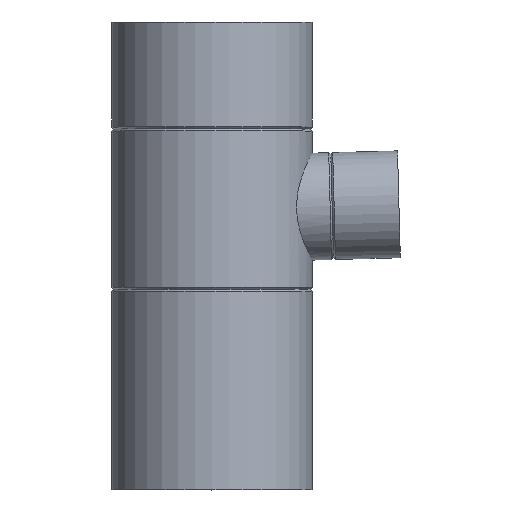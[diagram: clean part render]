
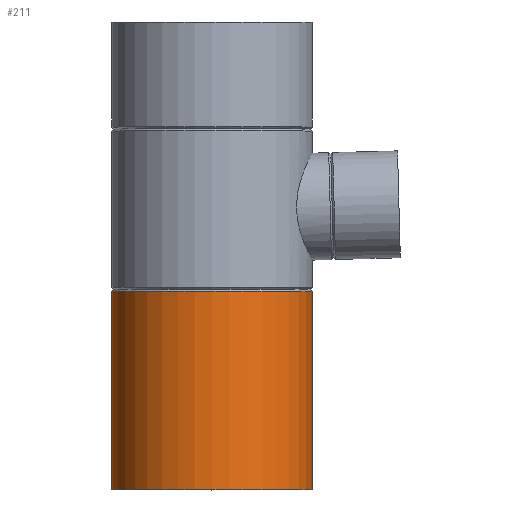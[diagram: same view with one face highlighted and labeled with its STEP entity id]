
A CAD part, top view. The second image highlights one B-rep face of the part: STEP entity #211.
In plain terms, the highlighted cylindrical face has radius 37.5 mm (diameter 75 mm), a full revolution.
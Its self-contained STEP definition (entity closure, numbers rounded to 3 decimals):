
#23=CYLINDRICAL_SURFACE($,#244,37.5);
#41=FACE_BOUND($,#87,.T.);
#57=FACE_OUTER_BOUND($,#86,.T.);
#86=EDGE_LOOP($,(#169));
#87=EDGE_LOOP($,(#170));
#100=CIRCLE($,#232,37.5);
#106=CIRCLE($,#245,37.5);
#116=VERTEX_POINT($,#403);
#123=VERTEX_POINT($,#485);
#133=EDGE_CURVE($,#116,#116,#100,.T.);
#140=EDGE_CURVE($,#123,#123,#106,.T.);
#169=ORIENTED_EDGE($,*,*,#133,.T.);
#170=ORIENTED_EDGE($,*,*,#140,.F.);
#211=ADVANCED_FACE($,(#57,#41),#23,.T.);
#232=AXIS2_PLACEMENT_3D($,#404,#280,#281);
#244=AXIS2_PLACEMENT_3D($,#484,#304,#305);
#245=AXIS2_PLACEMENT_3D($,#486,#306,#307);
#280=DIRECTION('center_axis',(0.,-1.,0.));
#281=DIRECTION('ref_axis',(1.,0.,0.));
#304=DIRECTION('center_axis',(0.,1.,0.));
#305=DIRECTION('ref_axis',(1.,0.,0.));
#306=DIRECTION('center_axis',(0.,-1.,0.));
#307=DIRECTION('ref_axis',(1.,0.,0.));
#403=CARTESIAN_POINT('',(-37.5,74.25,0.));
#404=CARTESIAN_POINT('Origin',(0.,74.25,0.));
#484=CARTESIAN_POINT('Origin',(0.,0.,0.));
#485=CARTESIAN_POINT('',(-37.5,0.,0.));
#486=CARTESIAN_POINT('Origin',(0.,0.,0.));
